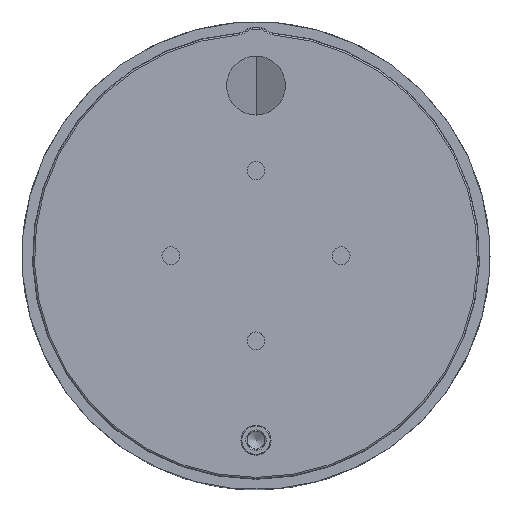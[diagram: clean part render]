
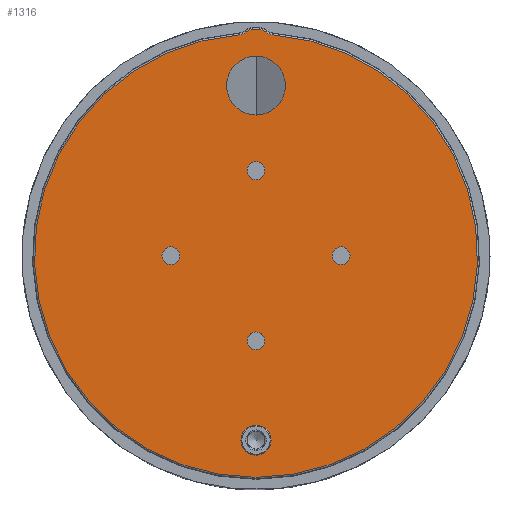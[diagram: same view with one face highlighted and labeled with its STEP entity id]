
A CAD part, top view. The second image highlights one B-rep face of the part: STEP entity #1316.
In plain terms, the highlighted planar face has unit normal (0, 0, 1).
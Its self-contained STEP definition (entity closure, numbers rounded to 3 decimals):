
#79=FACE_BOUND('',#453,.T.);
#80=FACE_BOUND('',#454,.T.);
#81=FACE_BOUND('',#455,.T.);
#82=FACE_BOUND('',#456,.T.);
#83=FACE_BOUND('',#457,.T.);
#84=FACE_BOUND('',#458,.T.);
#189=LINE('',#3395,#261);
#261=VECTOR('',#1870,10.);
#360=FACE_OUTER_BOUND('',#452,.T.);
#452=EDGE_LOOP('',(#1170,#1171,#1172,#1173,#1174,#1175));
#453=EDGE_LOOP('',(#1176));
#454=EDGE_LOOP('',(#1177));
#455=EDGE_LOOP('',(#1178));
#456=EDGE_LOOP('',(#1179));
#457=EDGE_LOOP('',(#1180));
#458=EDGE_LOOP('',(#1181));
#513=CIRCLE('',#1473,1.265);
#515=CIRCLE('',#1476,4.15);
#516=CIRCLE('',#1478,2.117);
#518=CIRCLE('',#1481,1.265);
#520=CIRCLE('',#1484,1.265);
#526=CIRCLE('',#1494,1.7);
#528=CIRCLE('',#1497,1.265);
#529=CIRCLE('',#1499,1.3);
#530=CIRCLE('',#1501,31.25);
#531=CIRCLE('',#1502,1.7);
#532=CIRCLE('',#1503,1.3);
#634=VERTEX_POINT('',#3354);
#636=VERTEX_POINT('',#3360);
#637=VERTEX_POINT('',#3364);
#639=VERTEX_POINT('',#3370);
#641=VERTEX_POINT('',#3376);
#646=VERTEX_POINT('',#3392);
#647=VERTEX_POINT('',#3394);
#648=VERTEX_POINT('',#3398);
#649=VERTEX_POINT('',#3400);
#650=VERTEX_POINT('',#3404);
#651=VERTEX_POINT('',#3410);
#652=VERTEX_POINT('',#3412);
#804=EDGE_CURVE('',#634,#634,#513,.T.);
#808=EDGE_CURVE('',#636,#636,#515,.T.);
#809=EDGE_CURVE('',#637,#637,#516,.T.);
#812=EDGE_CURVE('',#639,#639,#518,.T.);
#815=EDGE_CURVE('',#641,#641,#520,.T.);
#824=EDGE_CURVE('',#646,#647,#189,.T.);
#827=EDGE_CURVE('',#648,#649,#526,.T.);
#829=EDGE_CURVE('',#650,#650,#528,.T.);
#831=EDGE_CURVE('',#649,#646,#529,.T.);
#832=EDGE_CURVE('',#651,#648,#530,.T.);
#833=EDGE_CURVE('',#652,#651,#531,.T.);
#834=EDGE_CURVE('',#647,#652,#532,.T.);
#1170=ORIENTED_EDGE('',*,*,#832,.F.);
#1171=ORIENTED_EDGE('',*,*,#833,.F.);
#1172=ORIENTED_EDGE('',*,*,#834,.F.);
#1173=ORIENTED_EDGE('',*,*,#824,.F.);
#1174=ORIENTED_EDGE('',*,*,#831,.F.);
#1175=ORIENTED_EDGE('',*,*,#827,.F.);
#1176=ORIENTED_EDGE('',*,*,#804,.T.);
#1177=ORIENTED_EDGE('',*,*,#829,.T.);
#1178=ORIENTED_EDGE('',*,*,#812,.T.);
#1179=ORIENTED_EDGE('',*,*,#815,.T.);
#1180=ORIENTED_EDGE('',*,*,#809,.T.);
#1181=ORIENTED_EDGE('',*,*,#808,.T.);
#1236=PLANE('',#1500);
#1316=ADVANCED_FACE('',(#360,#79,#80,#81,#82,#83,#84),#1236,.T.);
#1473=AXIS2_PLACEMENT_3D('',#3355,#1825,#1826);
#1476=AXIS2_PLACEMENT_3D('',#3362,#1833,#1834);
#1478=AXIS2_PLACEMENT_3D('',#3365,#1837,#1838);
#1481=AXIS2_PLACEMENT_3D('',#3371,#1844,#1845);
#1484=AXIS2_PLACEMENT_3D('',#3377,#1851,#1852);
#1494=AXIS2_PLACEMENT_3D('',#3401,#1877,#1878);
#1497=AXIS2_PLACEMENT_3D('',#3405,#1883,#1884);
#1499=AXIS2_PLACEMENT_3D('',#3408,#1888,#1889);
#1500=AXIS2_PLACEMENT_3D('',#3409,#1890,#1891);
#1501=AXIS2_PLACEMENT_3D('',#3411,#1892,#1893);
#1502=AXIS2_PLACEMENT_3D('',#3413,#1894,#1895);
#1503=AXIS2_PLACEMENT_3D('',#3414,#1896,#1897);
#1825=DIRECTION('center_axis',(0.,0.,-1.));
#1826=DIRECTION('ref_axis',(1.,0.,0.));
#1833=DIRECTION('center_axis',(0.,0.,-1.));
#1834=DIRECTION('ref_axis',(1.,0.,0.));
#1837=DIRECTION('center_axis',(0.,0.,-1.));
#1838=DIRECTION('ref_axis',(1.,0.,0.));
#1844=DIRECTION('center_axis',(0.,0.,-1.));
#1845=DIRECTION('ref_axis',(1.,0.,0.));
#1851=DIRECTION('center_axis',(0.,0.,-1.));
#1852=DIRECTION('ref_axis',(1.,0.,0.));
#1870=DIRECTION('',(1.,0.,0.));
#1877=DIRECTION('center_axis',(0.,0.,1.));
#1878=DIRECTION('ref_axis',(0.388,-0.922,0.));
#1883=DIRECTION('center_axis',(0.,0.,-1.));
#1884=DIRECTION('ref_axis',(1.,0.,0.));
#1888=DIRECTION('center_axis',(0.,0.,-1.));
#1889=DIRECTION('ref_axis',(-0.352,0.936,0.));
#1890=DIRECTION('center_axis',(0.,0.,1.));
#1891=DIRECTION('ref_axis',(-1.,0.,0.));
#1892=DIRECTION('center_axis',(0.,0.,-1.));
#1893=DIRECTION('ref_axis',(0.,-1.,0.));
#1894=DIRECTION('center_axis',(0.,0.,1.));
#1895=DIRECTION('ref_axis',(-0.388,-0.922,0.));
#1896=DIRECTION('center_axis',(0.,0.,-1.));
#1897=DIRECTION('ref_axis',(0.352,0.936,0.));
#3354=CARTESIAN_POINT('',(-1.265,-12.,37.225));
#3355=CARTESIAN_POINT('Origin',(0.,-12.,37.225));
#3360=CARTESIAN_POINT('',(-4.15,24.,37.225));
#3362=CARTESIAN_POINT('Origin',(0.,24.,37.225));
#3364=CARTESIAN_POINT('',(-2.117,-26.,37.225));
#3365=CARTESIAN_POINT('Origin',(0.,-26.,37.225));
#3370=CARTESIAN_POINT('',(10.736,0.,37.225));
#3371=CARTESIAN_POINT('Origin',(12.,0.,37.225));
#3376=CARTESIAN_POINT('',(-13.265,0.,37.225));
#3377=CARTESIAN_POINT('Origin',(-12.,0.,37.225));
#3392=CARTESIAN_POINT('',(-0.519,31.9,37.225));
#3394=CARTESIAN_POINT('',(0.518,31.9,37.225));
#3395=CARTESIAN_POINT('',(0.259,31.9,37.225));
#3398=CARTESIAN_POINT('',(-2.368,31.16,37.225));
#3400=CARTESIAN_POINT('',(-1.376,31.577,37.225));
#3401=CARTESIAN_POINT('Origin',(-2.497,32.855,37.225));
#3404=CARTESIAN_POINT('',(-1.265,12.,37.225));
#3405=CARTESIAN_POINT('Origin',(0.,12.,37.225));
#3408=CARTESIAN_POINT('Origin',(-0.519,30.6,37.225));
#3409=CARTESIAN_POINT('Origin',(0.,0.325,37.225));
#3410=CARTESIAN_POINT('',(2.368,31.16,37.225));
#3411=CARTESIAN_POINT('Origin',(0.,0.,37.225));
#3412=CARTESIAN_POINT('',(1.376,31.577,37.225));
#3413=CARTESIAN_POINT('Origin',(2.497,32.855,37.225));
#3414=CARTESIAN_POINT('Origin',(0.518,30.6,37.225));
